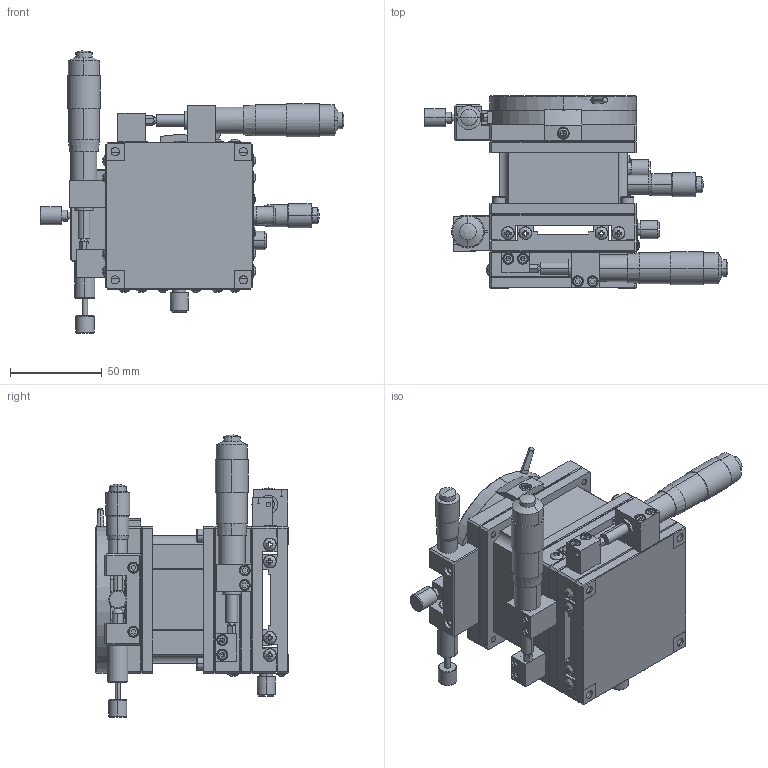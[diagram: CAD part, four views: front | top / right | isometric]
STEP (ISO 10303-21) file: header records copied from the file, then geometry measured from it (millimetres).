
FILE_DESCRIPTION (( 'STEP AP214' ), '1' );
FILE_NAME ('LD80-R.STEP', '2022-09-12T09:15:02', ( '' ), ( '' ), 'SwSTEP 2.0', 'SolidWorks 2017', '' );
FILE_SCHEMA (( 'AUTOMOTIVE_DESIGN' ));
Length unit declared in the file: millimetre
Products named in the file (1): LD80-R
Bounding box: 165.89 x 105 x 153.91 mm (x, y, z)
Surface area: 148844.9 mm2 (no closed solid volume)
Topology: 0 solids, 58 shells, 1207 faces, 3625 edges, 2413 vertices
Faces by surface type: plane 736, cylinder 235, cone 129, bspline 107
Entity records: 53527 total; most frequent: CARTESIAN_POINT 23467, ORIENTED_EDGE 6122, DIRECTION 5543, EDGE_CURVE 3555, VERTEX_POINT 2407, LINE 1971, VECTOR 1971, AXIS2_PLACEMENT_3D 1786
